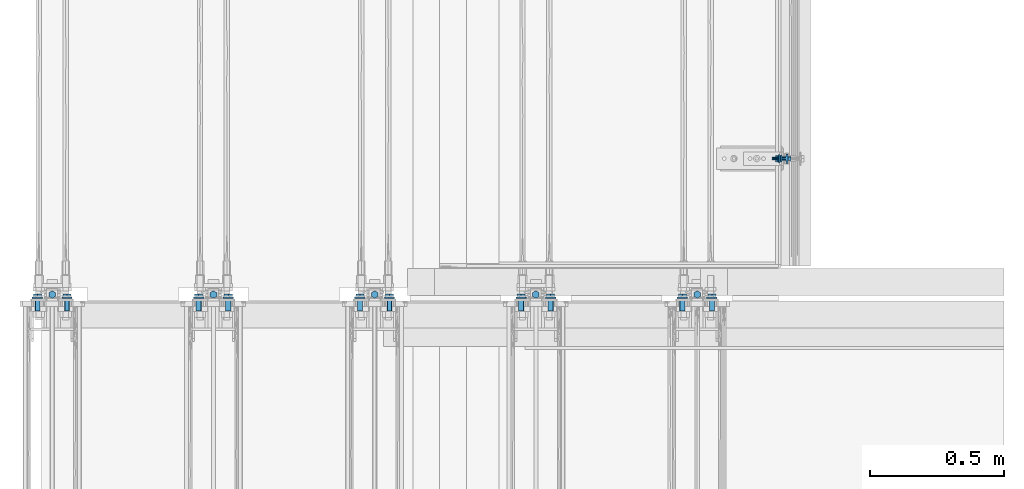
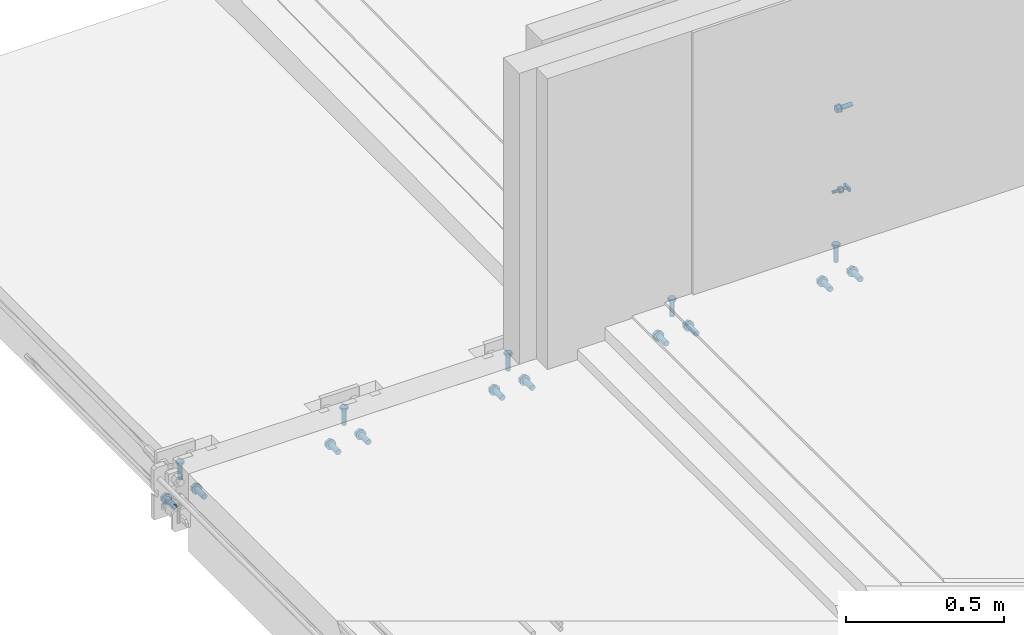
# One storey, part 6 of 17: 30 assemblies.
"""IFC2X3 building model written with IfcOpenShell, lengths in metres."""

from ifc_helpers import new_model, entity, si_unit, converted_unit, derived_unit, direction, frame, frame_2d, origin, place, context, subcontext, project, spatial, polyline, circle_curve, parameter, trimmed, segment, composite_curve, circle, hollow_circle, outline, extrude, faceted_brep, source, transform, mapped, material, type_object, type_shapes, element, save


model = new_model("IFC2X3")

# Units and contexts
model_context = context("Model", 3, precision=1e-05, world=origin(), true_north=direction((6.123031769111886e-17, 1.0)))
plan_context = context("Plan", 3, precision=1e-05, world=origin(), true_north=direction((6.123031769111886e-17, 1.0)))
body_context = subcontext(model_context, "Body", "Model", "MODEL_VIEW")
ifc_project = project(units=[si_unit("LENGTHUNIT", "METRE"), si_unit("AREAUNIT", "SQUARE_METRE"), converted_unit("PLANEANGLEUNIT", "DEGREE", entity("IfcPlaneAngleMeasure", 0.017453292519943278), si_unit("PLANEANGLEUNIT", "RADIAN"), dimensions=[0, 0, 0, 0, 0, 0, 0]), si_unit("VOLUMEUNIT", "CUBIC_METRE"), derived_unit("THERMALTRANSMITTANCEUNIT", [(si_unit("MASSUNIT", "GRAM", prefix="KILO"), 1), (si_unit("THERMODYNAMICTEMPERATUREUNIT", "KELVIN"), -1), (si_unit("TIMEUNIT", "SECOND"), -3)]), derived_unit("USERDEFINED", [(si_unit("MASSUNIT", "GRAM", prefix="KILO"), 1), (si_unit("THERMODYNAMICTEMPERATUREUNIT", "KELVIN"), -1), (si_unit("TIMEUNIT", "SECOND"), -2)]), derived_unit("THERMALRESISTANCEUNIT", [(si_unit("MASSUNIT", "GRAM", prefix="KILO"), -1), (si_unit("TIMEUNIT", "SECOND"), 3), (si_unit("THERMODYNAMICTEMPERATUREUNIT", "KELVIN"), 1)]), si_unit("PRESSUREUNIT", "PASCAL"), derived_unit("MASSDENSITYUNIT", [(si_unit("MASSUNIT", "GRAM", prefix="KILO"), 1), (si_unit("LENGTHUNIT", "METRE"), -3)]), derived_unit("VAPORPERMEABILITYUNIT", [(si_unit("LENGTHUNIT", "METRE"), -1), (si_unit("TIMEUNIT", "SECOND"), 1)]), derived_unit("USERDEFINED", [(si_unit("MASSUNIT", "GRAM", prefix="KILO"), 1), (si_unit("TIMEUNIT", "SECOND"), -3), (si_unit("LENGTHUNIT", "METRE"), 3), (si_unit("ELECTRICCURRENTUNIT", "AMPERE"), -2)])], contexts=[model_context, plan_context])

# Site, building, storey
site_placement = place(None, origin())
site = spatial("IfcSite", under=ifc_project, at=site_placement, Name="Default", CompositionType="ELEMENT")
building_placement = place(site_placement, origin())
building = spatial("IfcBuilding", under=site, at=building_placement, CompositionType="ELEMENT")
storey_placement = place(building_placement, origin())
storey = spatial("IfcBuildingStorey", under=building, at=storey_placement, Name="L0", CompositionType="ELEMENT", Elevation=0.0)

# Assemblies
ifc_material = material(Name="REC_Acero, S 275JR (Zincado)")
type_product_1 = type_object("IfcTypeProduct", Name="REC-T-M20:T_M20", material=ifc_material)
shared_shape_1 = source(origin(), body_context, "Body", "SweptSolid", [
    extrude(hollow_circle(Radius=0.01850000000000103, WallThickness=0.007999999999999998, at=frame_2d((1.2655792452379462e-19, -2.988757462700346e-17), x_axis=(1.0, 0.0))), origin(), (0.0, 0.0, 1.0), 0.0029999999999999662),
])
type_shapes(type_product_1, [shared_shape_1])
for number, where, z_axis, x_axis in (
    (1, (5.240640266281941, 14.804530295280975, -0.15999999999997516), (0.0, 1.0, 0.0), (-1.0, 0.0, 0.0)),
    (2, (5.130640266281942, 14.804530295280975, -0.15999999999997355), (0.0, 1.0, 0.0), (-1.0, 0.0, 0.0)),
    (3, (5.840680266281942, 14.804530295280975, -0.1599999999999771), (0.0, 1.0, 0.0), (-1.0, 0.0, 0.0)),
    (4, (5.730680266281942, 14.804530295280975, -0.15999999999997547), (0.0, 1.0, 0.0), (-1.0, 0.0, 0.0)),
    (5, (6.440720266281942, 14.804530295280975, -0.159999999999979), (0.0, 1.0, 0.0), (-1.0, 0.0, 0.0)),
    (6, (6.330720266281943, 14.804530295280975, -0.15999999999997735), (0.0, 1.0, 0.0), (-1.0, 0.0, 0.0)),
    (7, (7.040760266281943, 14.804530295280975, -0.159999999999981), (0.0, 1.0, 0.0), (-1.0, 0.0, 0.0)),
    (8, (6.9307602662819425, 14.804530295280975, -0.15999999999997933), (0.0, 1.0, 0.0), (-1.0, 0.0, 0.0)),
    (9, (7.640800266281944, 14.804530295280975, -0.1599999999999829), (0.0, 1.0, 0.0), (-1.0, 0.0, 0.0)),
    (10, (7.530800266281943, 14.804530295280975, -0.15999999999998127), (0.0, 1.0, 0.0), (-1.0, 0.0, 0.0)),
):
    element("IfcElementAssembly", number, at=place(storey_placement, frame(where, z_axis=z_axis, x_axis=x_axis)), inside=storey, type_object=type_product_1, material=ifc_material, Name="REC-T-M20:T_M20", ObjectType="REC-T-M20:T_M20", AssemblyPlace="NOTDEFINED", PredefinedType="NOTDEFINED", context=body_context, shape_type="MappedRepresentation", body=[
        mapped(shared_shape_1, transform((0.0, 0.0, 0.0), scale=1.0)),
    ])
type_product_2 = type_object("IfcTypeProduct", Name="REC-M20-60:M20-60", material=ifc_material)
shared_shape_2 = source(origin(), body_context, "Body", "SweptSolid", [
    extrude(outline(polyline([(-0.008660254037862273, -0.015000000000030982), (0.008660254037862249, -0.015000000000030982), (0.017320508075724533, 0.0), (0.008660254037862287, 0.015000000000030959), (-0.008660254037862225, 0.015000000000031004), (-0.017320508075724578, 0.0), (-0.008660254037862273, -0.015000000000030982)])), origin(), (0.0, 0.0, 1.0), 0.013000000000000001),
    extrude(circle(Radius=0.01, at=frame_2d((-5.2874371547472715e-19, -1.6155445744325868e-17), x_axis=(1.0, 0.0))), frame((0.0, 0.0, -0.05000000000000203)), (0.0, 0.0, 1.0), 0.06),
])
type_shapes(type_product_2, [shared_shape_2])
for number, where, z_axis, x_axis, name in (
    (11, (5.240640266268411, 14.807530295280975, -0.15999999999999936), (0.0, 1.0, 0.0), (0.0, 0.0, 1.0), "REC-M20-60:M20-60"),
    (12, (5.130640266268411, 14.807530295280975, -0.15999999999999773), (0.0, 1.0, 0.0), (0.0, 0.0, 1.0), "REC-M20-60:M20-60"),
    (13, (5.840680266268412, 14.807530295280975, -0.16000000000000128), (0.0, 1.0, 0.0), (0.0, 0.0, 1.0), "REC-M20-60:M20-60"),
    (14, (5.730680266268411, 14.807530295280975, -0.15999999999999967), (0.0, 1.0, 0.0), (0.0, 0.0, 1.0), "REC-M20-60:M20-60"),
    (15, (6.4407202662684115, 14.807530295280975, -0.1600000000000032), (0.0, 1.0, 0.0), (0.0, 0.0, 1.0), "REC-M20-60:M20-60"),
    (16, (6.330720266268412, 14.807530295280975, -0.16000000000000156), (0.0, 1.0, 0.0), (0.0, 0.0, 1.0), "REC-M20-60:M20-60"),
    (17, (7.040760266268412, 14.807530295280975, -0.1600000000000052), (0.0, 1.0, 0.0), (0.0, 0.0, 1.0), "REC-M20-60:M20-60"),
    (18, (6.930760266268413, 14.807530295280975, -0.16000000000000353), (0.0, 1.0, 0.0), (0.0, 0.0, 1.0), "REC-M20-60:M20-60"),
    (19, (7.640800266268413, 14.807530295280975, -0.1600000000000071), (0.0, 1.0, 0.0), (0.0, 0.0, 1.0), "REC-M20-60:M20-60"),
    (20, (7.530800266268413, 14.807530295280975, -0.16000000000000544), (0.0, 1.0, 0.0), (0.0, 0.0, 1.0), "REC-M20-60:M20-60"),
):
    element("IfcElementAssembly", number, at=place(storey_placement, frame(where, z_axis=z_axis, x_axis=x_axis)), inside=storey, type_object=type_product_2, material=ifc_material, Name=name, ObjectType="REC-M20-60:M20-60", AssemblyPlace="NOTDEFINED", PredefinedType="NOTDEFINED", context=body_context, shape_type="MappedRepresentation", body=[
        mapped(shared_shape_2, transform((0.0, 0.0, 0.0), scale=1.0)),
    ])
type_product_3 = type_object("IfcTypeProduct", Name="REC-M16-60:M16-60", material=ifc_material)
shared_shape_3 = source(origin(), body_context, "Body", "SweptSolid", [
    extrude(outline(polyline([(-0.0070686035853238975, -0.012243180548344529), (0.007068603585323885, -0.012243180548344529), (0.014137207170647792, 0.0), (0.007068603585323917, 0.012243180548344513), (-0.007068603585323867, 0.012243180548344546), (-0.014137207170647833, 0.0), (-0.0070686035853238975, -0.012243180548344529)])), origin(), (0.0, 0.0, 1.0), 0.010000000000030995),
    extrude(circle(Radius=0.008, at=frame_2d((-5.2874371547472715e-19, -1.2924356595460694e-17), x_axis=(1.0, 0.0))), frame((0.0, 0.0, -0.060000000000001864)), (0.0, 0.0, 1.0), 0.060000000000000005),
])
type_shapes(type_product_3, [shared_shape_3])
for number, where, z_axis, x_axis, name in (
    (21, (5.185640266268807, 14.818355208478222, -0.0479356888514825), (0.0, 0.0, 1.0), (0.0, -1.0, 0.0), "REC-M16-60:M16-60"),
    (22, (5.785680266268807, 14.818355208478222, -0.04793568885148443), (0.0, 0.0, 1.0), (0.0, -1.0, 0.0), "REC-M16-60:M16-60"),
    (23, (6.385720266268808, 14.818355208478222, -0.04793568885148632), (0.0, 0.0, 1.0), (0.0, -1.0, 0.0), "REC-M16-60:M16-60"),
    (24, (6.985760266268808, 14.818355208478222, -0.04793568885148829), (0.0, 0.0, 1.0), (0.0, -1.0, 0.0), "REC-M16-60:M16-60"),
    (25, (7.585800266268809, 14.818355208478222, -0.047935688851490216), (0.0, 0.0, 1.0), (0.0, -1.0, 0.0), "REC-M16-60:M16-60"),
):
    element("IfcElementAssembly", number, at=place(storey_placement, frame(where, z_axis=z_axis, x_axis=x_axis)), inside=storey, type_object=type_product_3, material=ifc_material, Name=name, ObjectType="REC-M16-60:M16-60", AssemblyPlace="NOTDEFINED", PredefinedType="NOTDEFINED", context=body_context, shape_type="MappedRepresentation", body=[
        mapped(shared_shape_3, transform((0.0, 0.0, 0.0), scale=1.0)),
    ])
type_product_4 = type_object("IfcTypeProduct", Name="REC-A-M16:A-M16", material=ifc_material)
shared_shape_4 = source(origin(), body_context, "Body", "SweptSolid", [
    extrude(hollow_circle(Radius=0.015, WallThickness=0.006499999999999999, at=frame_2d((1.062573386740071e-19, -2.4233168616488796e-17), x_axis=(1.0, 0.0))), origin(), (0.0, 0.0, 1.0), 0.003),
])
type_shapes(type_product_4, [shared_shape_4])
assembly_1_placement = place(storey_placement, frame((7.8930952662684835, 15.324380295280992, 0.07200000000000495), z_axis=(-1.0, 0.0, 0.0), x_axis=(0.0, -1.0, 0.0)))
element("IfcElementAssembly", 26, at=assembly_1_placement, inside=storey, type_object=type_product_4, material=ifc_material, Name="REC-A-M16:A-M16", ObjectType="REC-A-M16:A-M16", AssemblyPlace="NOTDEFINED", PredefinedType="NOTDEFINED", context=body_context, shape_type="MappedRepresentation", body=[
    mapped(shared_shape_4, transform((0.0, 0.0, 0.0), scale=1.0)),
])
type_product_5 = type_object("IfcTypeProduct", Name="REC-M16-45:M16-45", material=ifc_material)
shared_shape_5 = source(origin(), body_context, "Body", "SweptSolid", [
    extrude(outline(polyline([(-0.0070686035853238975, -0.012243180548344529), (0.007068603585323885, -0.012243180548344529), (0.014137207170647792, 0.0), (0.007068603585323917, 0.012243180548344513), (-0.007068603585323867, 0.012243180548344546), (-0.014137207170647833, 0.0), (-0.0070686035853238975, -0.012243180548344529)])), origin(), (0.0, 0.0, 1.0), 0.013000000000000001),
    extrude(circle(Radius=0.008, at=frame_2d((-5.2874371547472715e-19, -1.2924356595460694e-17), x_axis=(1.0, 0.0))), frame((0.0, 0.0, -0.045000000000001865)), (0.0, 0.0, 1.0), 0.045000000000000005),
])
type_shapes(type_product_5, [shared_shape_5])
assembly_2_placement = place(storey_placement, frame((7.890095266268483, 15.324380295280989, 0.07199999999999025), z_axis=(-1.0, 0.0, 0.0), x_axis=(0.0, 0.0, 1.0)))
element("IfcElementAssembly", 27, at=assembly_2_placement, inside=storey, type_object=type_product_5, material=ifc_material, Name="REC-M16-45:M16-45", ObjectType="REC-M16-45:M16-45", AssemblyPlace="NOTDEFINED", PredefinedType="NOTDEFINED", context=body_context, shape_type="MappedRepresentation", body=[
    mapped(shared_shape_5, transform((0.0, 0.0, 0.0), scale=1.0)),
])
type_product_6 = type_object("IfcTypeProduct", Name="REC-TPH1250:TPH1250", material=ifc_material)
shared_shape_6 = source(origin(), body_context, "Body", "Brep", [
    faceted_brep([(-0.005512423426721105, 0.006999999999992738, 0.04999470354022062), (-0.005512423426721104, 0.006999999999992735, 0.050994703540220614), (-0.017500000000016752, 0.006999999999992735, 0.050994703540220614), (-0.017500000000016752, 0.006999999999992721, 0.05849470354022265), (0.01750000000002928, 0.006999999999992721, 0.05849470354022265), (0.01750000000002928, 0.006999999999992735, 0.0509947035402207), (0.00551242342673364, 0.006999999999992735, 0.0509947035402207), (0.00551242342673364, 0.006999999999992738, 0.04999470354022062), (-0.005512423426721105, -0.007000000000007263, 0.04999470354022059), (0.00551242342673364, -0.007000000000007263, 0.04999470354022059), (0.00551242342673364, -0.007000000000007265, 0.05099470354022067), (0.01750000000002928, -0.007000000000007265, 0.05099470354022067), (0.01750000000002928, -0.007000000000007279, 0.058494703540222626), (-0.017500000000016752, -0.007000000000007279, 0.058494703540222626), (-0.017500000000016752, -0.007000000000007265, 0.050994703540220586), (-0.005512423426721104, -0.007000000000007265, 0.050994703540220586)], [[[0, 1, 2, 3, 4, 5, 6, 7]], [[8, 9, 10, 11, 12, 13, 14, 15]], [[1, 0, 8, 15]], [[3, 2, 14, 13]], [[4, 3, 13, 12]], [[5, 4, 12, 11]], [[6, 5, 11, 10]], [[7, 6, 10, 9]], [[0, 7, 9, 8]], [[2, 1, 15, 14]]]),
    faceted_brep([(0.002796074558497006, -0.002860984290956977, 0.0489420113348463), (-3.2352566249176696e-05, -0.004032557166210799, 0.0489420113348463), (-0.0028607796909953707, -0.002860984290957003, 0.0489420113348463), (-0.004032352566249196, -3.255716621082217e-05, 0.048942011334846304), (-0.0028607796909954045, 0.0027958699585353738, 0.048942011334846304), (-3.235256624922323e-05, 0.0039674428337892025, 0.04894201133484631), (0.0027960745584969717, 0.0027958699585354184, 0.048942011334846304), (0.00396764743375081, -3.2557166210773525e-05, 0.048942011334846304), (0.002796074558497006, -0.002860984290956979, 0.0499947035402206), (0.00396764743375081, -3.255716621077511e-05, 0.04999470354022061), (0.0027960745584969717, 0.0027958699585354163, 0.04999470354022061), (-3.235256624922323e-05, 0.0039674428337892, 0.04999470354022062), (-0.0028607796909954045, 0.0027958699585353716, 0.04999470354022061), (-0.004032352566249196, -3.2557166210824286e-05, 0.04999470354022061), (-0.0028607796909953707, -0.002860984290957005, 0.0499947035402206), (-3.2352566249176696e-05, -0.0040325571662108, 0.0499947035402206)], [[[0, 1, 2, 3, 4, 5, 6, 7]], [[8, 9, 10, 11, 12, 13, 14, 15]], [[1, 0, 8, 15]], [[2, 1, 15, 14]], [[3, 2, 14, 13]], [[4, 3, 13, 12]], [[5, 4, 12, 11]], [[6, 5, 11, 10]], [[7, 6, 10, 9]], [[0, 7, 9, 8]]]),
    faceted_brep([(0.004541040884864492, -0.00392160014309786, 0.0), (0.0008991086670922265, -0.005932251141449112, 0.0), (0.0008991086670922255, 0.00593225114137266, 0.0), (0.004555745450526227, 0.0039045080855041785, 0.0), (0.005999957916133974, -2.2472309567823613e-05, 0.0), (-0.0008991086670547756, -0.005932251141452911, 0.0), (-0.004556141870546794, -0.00390404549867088, 0.0), (-0.005999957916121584, 2.2472309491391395e-05, 0.0), (-0.004541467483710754, 0.0039211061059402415, 0.0), (-0.0008991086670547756, 0.005932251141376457, 0.0), (2.2472309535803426e-05, 0.0059999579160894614, 0.04894201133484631), (-0.0015311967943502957, 0.005801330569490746, 0.04894201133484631), (-0.002980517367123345, 0.005207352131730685, 0.04894201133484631), (-0.004226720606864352, 0.004258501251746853, 0.04894201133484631), (-0.005184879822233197, 0.0030194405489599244, 0.04894201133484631), (-0.005789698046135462, 0.0015746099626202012, 0.048942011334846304), (-0.005999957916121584, 2.247230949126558e-05, 0.048942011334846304), (-0.005801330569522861, -0.0015311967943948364, 0.048942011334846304), (-0.005207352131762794, -0.0029805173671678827, 0.0489420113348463), (-0.004258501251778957, -0.004226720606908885, 0.0489420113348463), (-0.003019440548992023, -0.005184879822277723, 0.0489420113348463), (-0.001574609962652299, -0.005789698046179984, 0.0489420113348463), (-2.2472309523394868e-05, -0.005999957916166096, 0.0489420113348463), (0.0015311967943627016, -0.005801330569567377, 0.0489420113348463), (0.002980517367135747, -0.005207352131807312, 0.0489420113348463), (0.0042267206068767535, -0.004258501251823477, 0.0489420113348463), (0.005184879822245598, -0.0030194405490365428, 0.0489420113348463), (0.005789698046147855, -0.0015746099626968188, 0.048942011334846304), (0.005999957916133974, -2.2472309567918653e-05, 0.048942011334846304), (0.005801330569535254, 0.0015311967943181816, 0.048942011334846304), (0.005207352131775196, 0.002980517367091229, 0.04894201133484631), (0.004258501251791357, 0.004226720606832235, 0.04894201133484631), (0.0030194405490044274, 0.005184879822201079, 0.04894201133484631), (0.0015746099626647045, 0.005789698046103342, 0.04894201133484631), (0.0008991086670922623, -0.005932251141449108, 0.0014985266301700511), (0.0, -0.0060000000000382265, 0.0014985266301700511), (-0.000899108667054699, -0.005932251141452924, 0.0014985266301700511), (-0.0008991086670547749, 0.005932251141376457, 0.001498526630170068), (0.0, 0.00599999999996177, 0.001498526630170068), (0.0008991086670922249, 0.005932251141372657, 0.001498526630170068)], [[[0, 1, 2, 3, 4]], [[5, 6, 7, 8, 9]], [[10, 11, 12, 13, 14, 15, 16, 17, 18, 19, 20, 21, 22, 23, 24, 25, 26, 27, 28, 29, 30, 31, 32, 33]], [[4, 28, 27]], [[0, 26, 25]], [[27, 26, 0]], [[25, 24, 34]], [[27, 0, 4]], [[24, 23, 34]], [[25, 34, 0]], [[34, 1, 0]], [[22, 35, 34]], [[34, 23, 22]], [[36, 22, 21]], [[36, 20, 19]], [[21, 20, 36]], [[19, 18, 6]], [[5, 36, 6]], [[36, 19, 6]], [[17, 16, 7]], [[17, 7, 6]], [[18, 17, 6]], [[36, 35, 22]], [[7, 16, 15]], [[8, 14, 13]], [[15, 14, 8]], [[13, 12, 37]], [[15, 8, 7]], [[12, 11, 37]], [[13, 37, 8]], [[37, 9, 8]], [[10, 38, 37]], [[37, 11, 10]], [[39, 10, 33]], [[39, 32, 31]], [[33, 32, 39]], [[31, 30, 3]], [[2, 39, 3]], [[39, 31, 3]], [[29, 28, 4]], [[29, 4, 3]], [[30, 29, 3]], [[39, 38, 10]], [[36, 5, 9, 37]], [[34, 35, 36, 37, 38, 39]], [[34, 39, 2, 1]]]),
])
type_shapes(type_product_6, [shared_shape_6])
assembly_3_placement = place(storey_placement, frame((7.864725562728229, 15.32438029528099, -0.24499999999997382), z_axis=(1.0, 0.0, 0.0), x_axis=(0.0, 1.0, 0.0)))
element("IfcElementAssembly", 28, at=assembly_3_placement, inside=storey, type_object=type_product_6, material=ifc_material, Name="REC-TPH1250:TPH1250", ObjectType="REC-TPH1250:TPH1250", AssemblyPlace="NOTDEFINED", PredefinedType="NOTDEFINED", context=body_context, shape_type="MappedRepresentation", body=[
    mapped(shared_shape_6, transform((0.0, 0.0, 0.0), scale=1.0)),
])
type_product_7 = type_object("IfcTypeProduct", Name="GEN-A-M12:A-M12", material=ifc_material)
shared_shape_7 = source(origin(), body_context, "Body", "SweptSolid", [
    extrude(hollow_circle(Radius=0.011999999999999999, WallThickness=0.004999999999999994, at=frame_2d((1.062573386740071e-19, -1.9386534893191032e-17), x_axis=(1.0, 0.0))), origin(), (0.0, 0.0, 1.0), 0.002399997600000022),
])
type_shapes(type_product_7, [shared_shape_7])
assembly_4_placement = place(storey_placement, frame((7.899720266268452, 15.324380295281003, -0.24499999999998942), z_axis=(-1.0, 0.0, 0.0), x_axis=(0.0, 1.0, 0.0)))
element("IfcElementAssembly", 29, at=assembly_4_placement, inside=storey, type_object=type_product_7, material=ifc_material, Name="GEN-A-M12:A-M12", ObjectType="GEN-A-M12:A-M12", AssemblyPlace="NOTDEFINED", PredefinedType="NOTDEFINED", context=body_context, shape_type="MappedRepresentation", body=[
    mapped(shared_shape_7, transform((0.0, 0.0, 0.0), scale=1.0)),
])
type_product_8 = type_object("IfcTypeProduct", Name="GEN-T-M12:T-M12", material=ifc_material)
shared_shape_8 = source(origin(), body_context, "Body", "SweptSolid", [
    extrude(outline(polyline([(-0.005890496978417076, -0.010202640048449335), (0.005890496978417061, -0.010202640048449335), (0.01178099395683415, 0.0), (0.005890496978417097, 0.010202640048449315), (-0.0058904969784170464, 0.010202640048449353), (-0.011780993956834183, 0.0), (-0.005890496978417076, -0.010202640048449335)]), holes=[composite_curve([segment(trimmed(circle_curve(frame_2d((6.043164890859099e-09, 0.0), x_axis=(1.0, 0.0)), 0.005999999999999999), [parameter(3.053332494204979e-13)], [parameter(180.0)], True, "PARAMETER"), False, "CONTINUOUS"), segment(trimmed(circle_curve(frame_2d((6.043164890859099e-09, 0.0), x_axis=(1.0, 0.0)), 0.005999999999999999), [parameter(179.99999999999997)], [parameter(0.0)], True, "PARAMETER"), False, "CONTINUOUS")], self_intersect=False)]), frame((-6.043164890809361e-09, 0.0, 0.0)), (0.0, 0.0, 1.0), 0.01),
])
type_shapes(type_product_8, [shared_shape_8])
assembly_5_placement = place(storey_placement, frame((7.897320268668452, 15.324380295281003, -0.2449999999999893), z_axis=(-1.0, 0.0, 0.0), x_axis=(0.0, 1.0, 0.0)))
element("IfcElementAssembly", 30, at=assembly_5_placement, inside=storey, type_object=type_product_8, material=ifc_material, Name="GEN-T-M12:T-M12", ObjectType="GEN-T-M12:T-M12", AssemblyPlace="NOTDEFINED", PredefinedType="NOTDEFINED", context=body_context, shape_type="MappedRepresentation", body=[
    mapped(shared_shape_8, transform((0.0, 0.0, 0.0), scale=1.0)),
])

save(model, "model.ifc")
